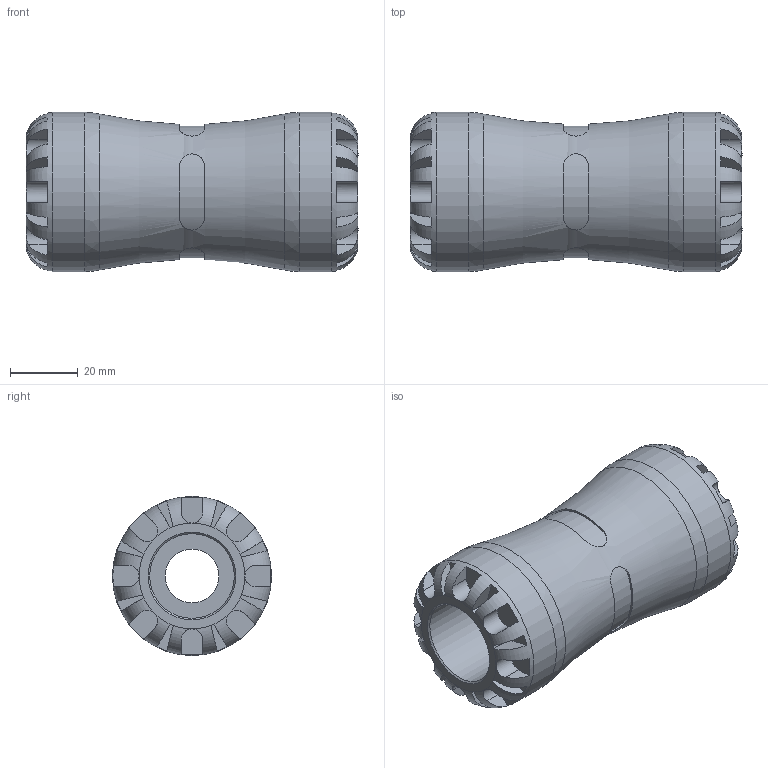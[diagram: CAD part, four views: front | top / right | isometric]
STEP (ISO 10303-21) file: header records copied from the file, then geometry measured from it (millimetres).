
FILE_DESCRIPTION(/* description */ ('PLASSON COUPLER METRIC TO IMPERIAL 25X3/4" SERIES 1'),/* implementation_level */ '2;1');
FILE_NAME(/* name */ 'C:\Dropbox\KIMPROJECTS-Inventor\99-16-3568-Processing\1001M\1001M6025007.ipt.stp',/* time_stamp */ '2017-01-22T10:47:16+02:00',/* author */ ('KIM'),/* organization */ (''),/* preprocessor_version */ 'ST-DEVELOPER v15.6',/* originating_system */ 'Autodesk Inventor 2015',/* authorisation */ '');
FILE_SCHEMA (('AUTOMOTIVE_DESIGN { 1 0 10303 214 3 1 1 }'));
Length unit declared in the file: millimetre
Products named in the file (1): 1001M6025007
Bounding box: 98 x 47 x 47 mm (x, y, z)
Volume: 104806.7 mm3; surface area: 24827.2 mm2
Topology: 1 solids, 1 shells, 164 faces, 419 edges, 262 vertices
Faces by surface type: plane 108, cylinder 49, torus 3, cone 2, bspline 2
Full cylindrical faces by diameter (mm): 15.875 x1, 19.05 x1, 25 x1, 47 x2
Entity records: 6428 total; most frequent: CARTESIAN_POINT 2459, ORIENTED_EDGE 808, DIRECTION 762, EDGE_CURVE 404, AXIS2_PLACEMENT_3D 309, VERTEX_POINT 258, EDGE_LOOP 182, STYLED_ITEM 165
